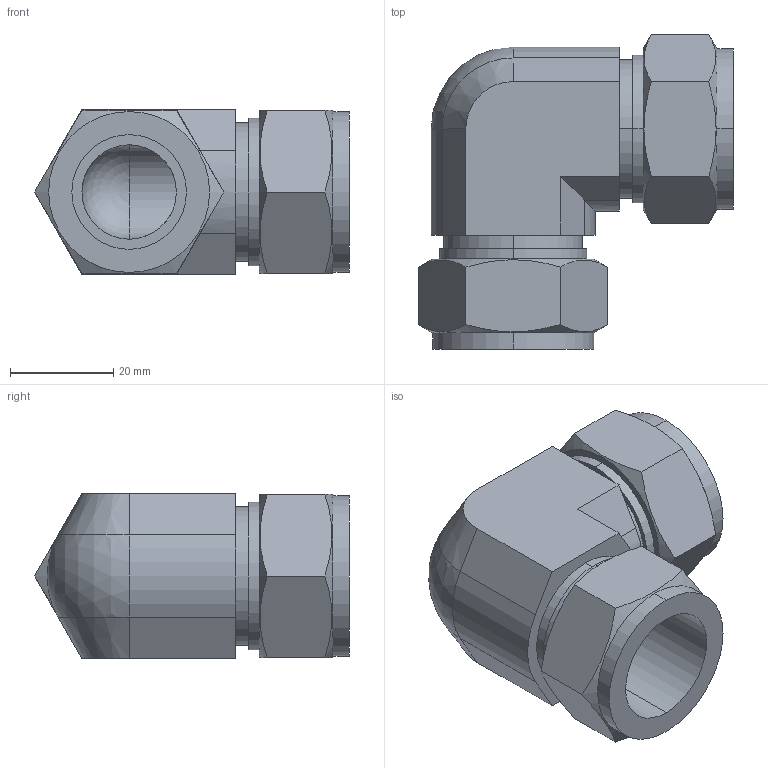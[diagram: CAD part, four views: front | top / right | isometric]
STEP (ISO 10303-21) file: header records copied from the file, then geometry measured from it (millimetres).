
FILE_DESCRIPTION (( 'STEP AP203' ), '1' );
FILE_NAME ('DLA14 SS.STEP', '2009-10-26T06:02:33', ( ' ' ), ( '' ), 'SwSTEP 2.0', 'SolidWorks 2008', '' );
FILE_SCHEMA (( 'CONFIG_CONTROL_DESIGN' ));
Length unit declared in the file: millimetre
Products named in the file (1): DLA14 SS
Bounding box: 61.03 x 61.03 x 31.8 mm (x, y, z)
Volume: 40112.4 mm3; surface area: 16398.7 mm2
Topology: 1 solids, 1 shells, 68 faces, 164 edges, 104 vertices
Faces by surface type: plane 32, cylinder 24, cone 10, sphere 2
Entity records: 2249 total; most frequent: CARTESIAN_POINT 625, ORIENTED_EDGE 320, DIRECTION 316, EDGE_CURVE 160, AXIS2_PLACEMENT_3D 121, VERTEX_POINT 102, EDGE_LOOP 78, VECTOR 74
